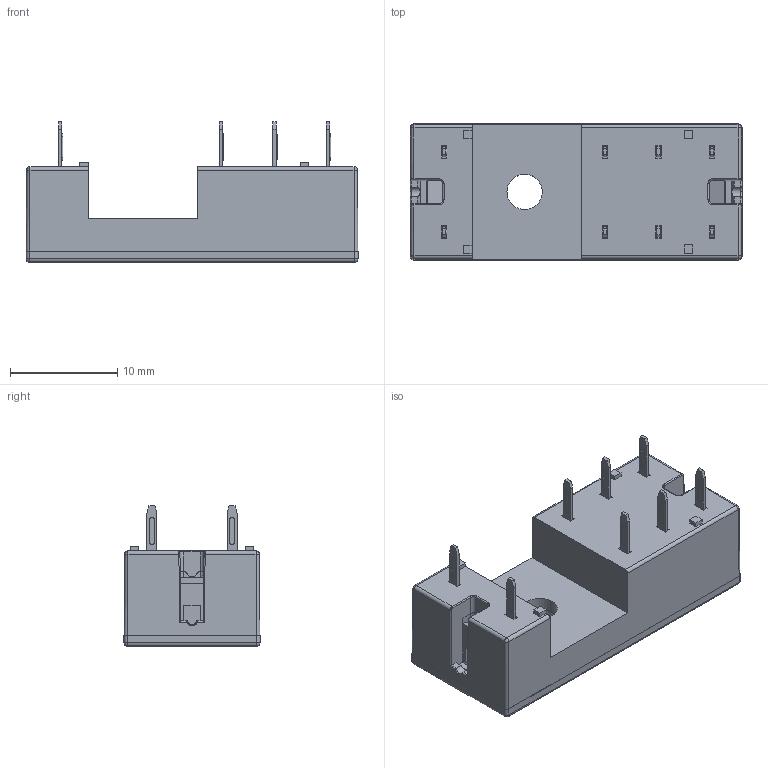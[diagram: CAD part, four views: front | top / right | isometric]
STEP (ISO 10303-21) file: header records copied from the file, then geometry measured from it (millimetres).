
FILE_DESCRIPTION (( 'STEP AP214' ), '1' );
FILE_NAME ('SRC08-P ____-0^SRC08-P 軞蚾芞(2)_SRC08-P 軞蚾芞.STEP', '2024-01-16T02:24:28', ( 'admin' ), ( '' ), 'SwSTEP 2.0', 'SolidWorks 2022', '' );
FILE_SCHEMA (( 'AUTOMOTIVE_DESIGN' ));
Length unit declared in the file: millimetre
Products named in the file (1): SRC08-P ____-0^SRC08-P 軞蚾芞(2)_SRC08-P 軞蚾芞
Bounding box: 31 x 12.7 x 13.1 mm (x, y, z)
Volume: 2295.3 mm3; surface area: 2554.4 mm2
Topology: 1 solids, 4 shells, 500 faces, 1278 edges, 821 vertices
Faces by surface type: plane 344, cylinder 96, bspline 32, torus 24, cone 4
Entity records: 15916 total; most frequent: CARTESIAN_POINT 3958, ORIENTED_EDGE 2540, DIRECTION 2333, EDGE_CURVE 1270, LINE 957, VECTOR 957, VERTEX_POINT 821, AXIS2_PLACEMENT_3D 688
